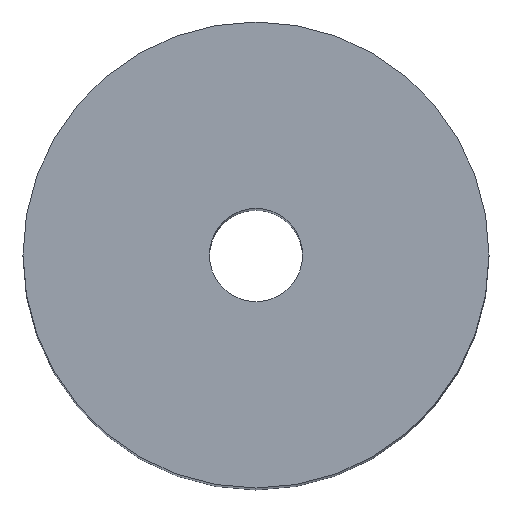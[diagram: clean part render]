
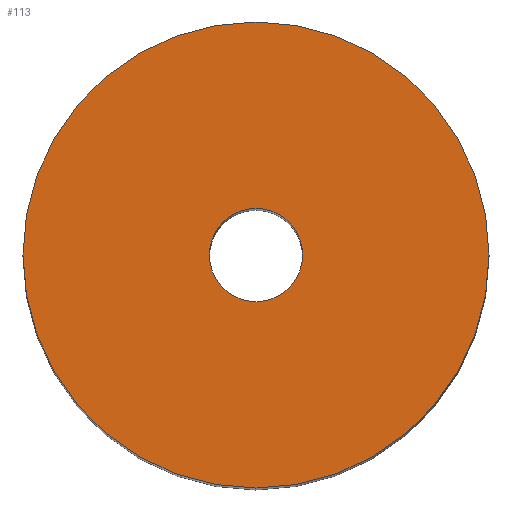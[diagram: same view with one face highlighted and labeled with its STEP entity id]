
A CAD part, top view. The second image highlights one B-rep face of the part: STEP entity #113.
In plain terms, the highlighted planar face has unit normal (0, 0, 1).
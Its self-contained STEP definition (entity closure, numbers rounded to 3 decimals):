
#113=ADVANCED_FACE('',(#121,#122),#119,.T.);
#119=PLANE('',#190);
#121=FACE_BOUND('',#125,.T.);
#122=FACE_BOUND('',#126,.T.);
#125=EDGE_LOOP('',(#133,#134));
#126=EDGE_LOOP('',(#135,#136));
#133=ORIENTED_EDGE('',*,*,#165,.T.);
#134=ORIENTED_EDGE('',*,*,#166,.T.);
#135=ORIENTED_EDGE('',*,*,#167,.F.);
#136=ORIENTED_EDGE('',*,*,#168,.F.);
#157=VERTEX_POINT('',#236);
#158=VERTEX_POINT('',#237);
#159=VERTEX_POINT('',#240);
#160=VERTEX_POINT('',#241);
#165=EDGE_CURVE('',#157,#158,#177,.T.);
#166=EDGE_CURVE('',#158,#157,#178,.T.);
#167=EDGE_CURVE('',#159,#160,#179,.T.);
#168=EDGE_CURVE('',#160,#159,#180,.T.);
#177=CIRCLE('',#186,35.);
#178=CIRCLE('',#187,35.);
#179=CIRCLE('',#188,7.);
#180=CIRCLE('',#189,7.);
#186=AXIS2_PLACEMENT_3D('',#235,#202,#203);
#187=AXIS2_PLACEMENT_3D('',#238,#204,#205);
#188=AXIS2_PLACEMENT_3D('',#239,#206,#207);
#189=AXIS2_PLACEMENT_3D('',#242,#208,#209);
#190=AXIS2_PLACEMENT_3D('',#243,#210,#211);
#202=DIRECTION('',(0.,0.,1.));
#203=DIRECTION('',(0.,1.,0.));
#204=DIRECTION('',(0.,0.,1.));
#205=DIRECTION('',(0.,-1.,0.));
#206=DIRECTION('',(0.,0.,1.));
#207=DIRECTION('',(0.,-1.,0.));
#208=DIRECTION('',(0.,0.,1.));
#209=DIRECTION('',(0.,1.,0.));
#210=DIRECTION('',(0.,0.,1.));
#211=DIRECTION('',(0.,1.,0.));
#235=CARTESIAN_POINT('',(0.,0.,170.));
#236=CARTESIAN_POINT('',(-35.,0.,170.));
#237=CARTESIAN_POINT('',(35.,0.,170.));
#238=CARTESIAN_POINT('',(0.,0.,170.));
#239=CARTESIAN_POINT('',(0.,0.,170.));
#240=CARTESIAN_POINT('',(7.,0.,170.));
#241=CARTESIAN_POINT('',(-7.,0.,170.));
#242=CARTESIAN_POINT('',(0.,0.,170.));
#243=CARTESIAN_POINT('',(0.,0.,170.));
